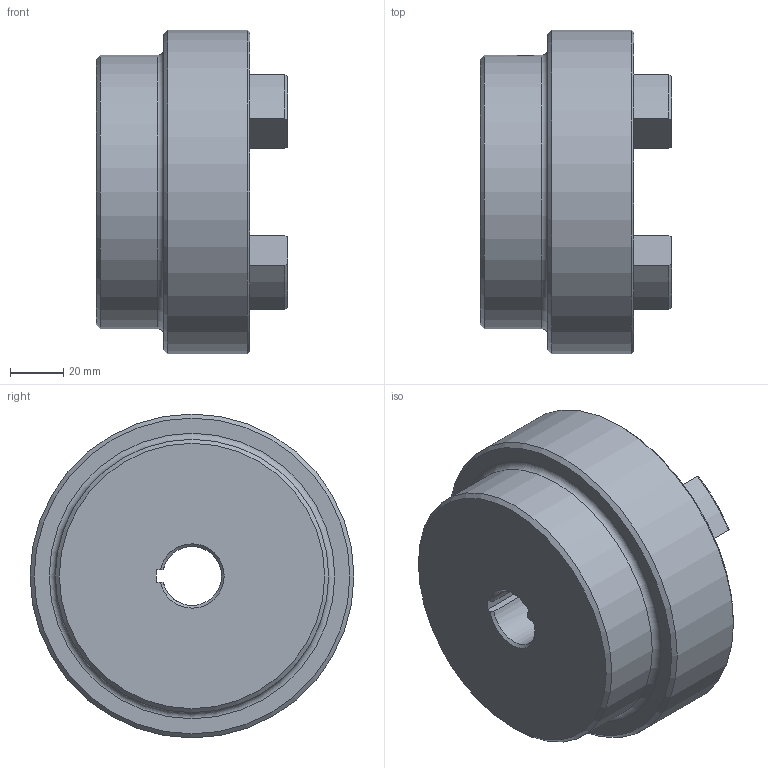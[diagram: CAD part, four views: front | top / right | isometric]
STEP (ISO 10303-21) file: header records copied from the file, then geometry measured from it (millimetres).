
FILE_DESCRIPTION (( 'STEP AP203' ), '1' );
FILE_NAME ('RC5.step', '2024-07-25T13:20:58', ( 'Adlan' ), ( '' ), 'SwSTEP 2.0', 'SolidWorks 2013', '' );
FILE_SCHEMA (( 'CONFIG_CONTROL_DESIGN' ));
Length unit declared in the file: inch
Products named in the file (1): RC5
Bounding box: 72.14 x 122.17 x 122.17 mm (x, y, z)
Volume: 461478.8 mm3; surface area: 59192.8 mm2
Topology: 1 solids, 1 shells, 86 faces, 222 edges, 139 vertices
Faces by surface type: cylinder 33, plane 22, torus 17, cone 14
Full cylindrical faces by diameter (mm): 5.105 x2, 103.124 x1, 122.174 x1
Entity records: 2881 total; most frequent: CARTESIAN_POINT 711, DIRECTION 462, ORIENTED_EDGE 416, EDGE_CURVE 208, AXIS2_PLACEMENT_3D 182, VERTEX_POINT 135, EDGE_LOOP 103, VECTOR 98
